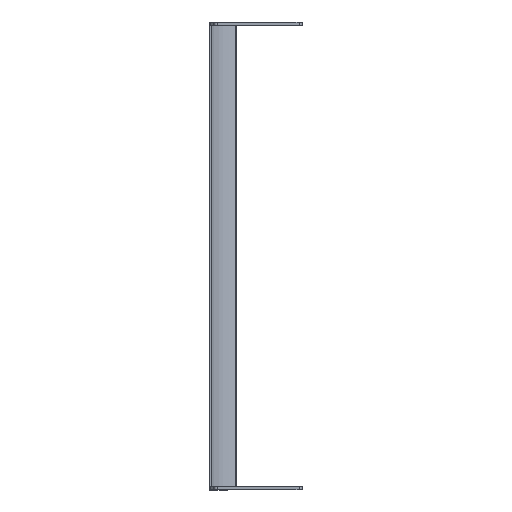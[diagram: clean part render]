
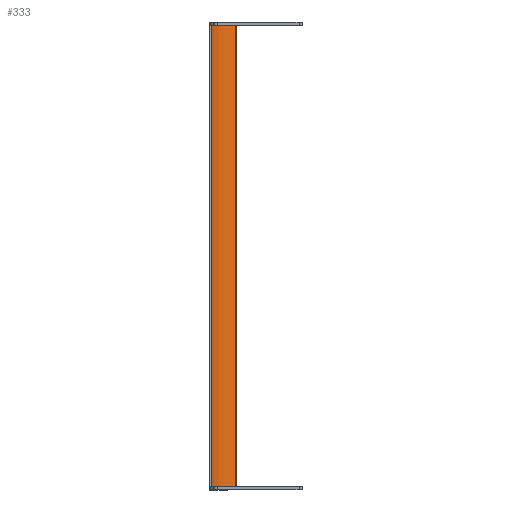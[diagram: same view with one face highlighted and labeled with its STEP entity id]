
A CAD part, left-side view. The second image highlights one B-rep face of the part: STEP entity #333.
In plain terms, the highlighted cylindrical face has radius 40.64 mm (diameter 81.28 mm), a partial arc.
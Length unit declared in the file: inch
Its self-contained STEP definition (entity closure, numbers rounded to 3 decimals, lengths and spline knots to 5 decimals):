
#40=CARTESIAN_POINT('',(-1.52,1.63,-9.118));
#41=DIRECTION('',(0.,0.,-1.));
#42=DIRECTION('',(0.914,-0.405,0.));
#43=AXIS2_PLACEMENT_3D('',#40,#41,#42);
#87=CARTESIAN_POINT('',(-1.52,1.63,9.118));
#88=DIRECTION('',(0.,0.,-1.));
#89=DIRECTION('',(0.914,-0.405,0.));
#90=AXIS2_PLACEMENT_3D('',#87,#88,#89);
#118=DIRECTION('',(0.,0.,1.));
#119=VECTOR('',#118,18.236);
#120=CARTESIAN_POINT('',(-1.00032,0.11675,-9.118));
#121=LINE('',#120,#119);
#122=DIRECTION('',(0.,0.,1.));
#123=VECTOR('',#122,18.236);
#124=CARTESIAN_POINT('',(-0.05742,0.98126,-9.118));
#125=LINE('',#124,#123);
#154=CARTESIAN_POINT('',(-0.05742,0.98126,-9.118));
#155=VERTEX_POINT('',#154);
#156=CARTESIAN_POINT('',(-1.00032,0.11675,-9.118));
#157=VERTEX_POINT('',#156);
#174=CARTESIAN_POINT('',(-0.05742,0.98126,9.118));
#175=VERTEX_POINT('',#174);
#176=CARTESIAN_POINT('',(-1.00032,0.11675,9.118));
#177=VERTEX_POINT('',#176);
#321=CARTESIAN_POINT('',(-1.52,1.63,-9.118));
#322=DIRECTION('',(0.,0.,1.));
#323=DIRECTION('',(1.,0.,0.));
#324=AXIS2_PLACEMENT_3D('',#321,#322,#323);
#325=CYLINDRICAL_SURFACE('',#324,1.6);
#326=ORIENTED_EDGE('',*,*,#191,.F.);
#328=ORIENTED_EDGE('',*,*,#327,.T.);
#329=ORIENTED_EDGE('',*,*,#247,.T.);
#330=ORIENTED_EDGE('',*,*,#314,.F.);
#331=EDGE_LOOP('',(#326,#328,#329,#330));
#332=FACE_OUTER_BOUND('',#331,.F.);
#44=CIRCLE('',#43,1.6);
#91=CIRCLE('',#90,1.6);
#191=EDGE_CURVE('',#155,#157,#44,.T.);
#247=EDGE_CURVE('',#175,#177,#91,.T.);
#314=EDGE_CURVE('',#157,#177,#121,.T.);
#327=EDGE_CURVE('',#155,#175,#125,.T.);
#333=ADVANCED_FACE('',(#332),#325,.F.);
